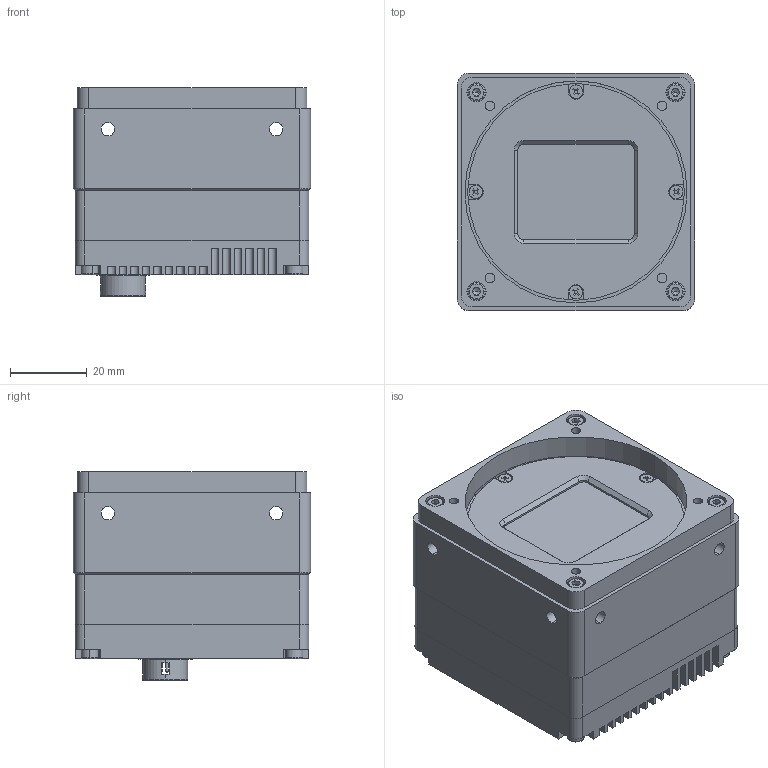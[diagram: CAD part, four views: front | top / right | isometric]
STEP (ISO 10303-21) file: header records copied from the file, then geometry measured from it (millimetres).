
FILE_DESCRIPTION (( 'STEP AP203' ), '1' );
FILE_NAME ('TS31MSGV-6M-A03-V1.2.0.STEP', '2022-08-04T10:00:32', ( '微软用户' ), ( '微软中国' ), 'SwSTEP 2.0', 'SolidWorks 2017', '' );
FILE_SCHEMA (( 'CONFIG_CONTROL_DESIGN' ));
Length unit declared in the file: millimetre
Products named in the file (1): TS31MSGV-6M-A03-V1.2.0
Bounding box: 62 x 62 x 54.55 mm (x, y, z)
Surface area: 30010.6 mm2 (no closed solid volume)
Topology: 0 solids, 68 shells, 652 faces, 2450 edges, 1830 vertices
Faces by surface type: plane 369, cylinder 202, cone 62, torus 16, bspline 2, sphere 1
Entity records: 27065 total; most frequent: CARTESIAN_POINT 6206, DIRECTION 4387, ORIENTED_EDGE 3836, EDGE_CURVE 2431, VERTEX_POINT 1828, LINE 1605, VECTOR 1605, AXIS2_PLACEMENT_3D 1391
